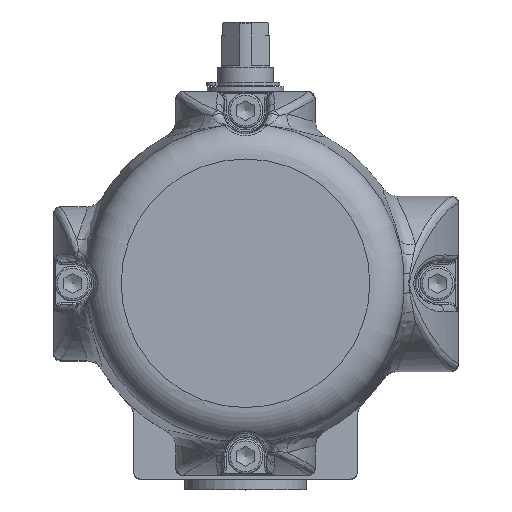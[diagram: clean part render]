
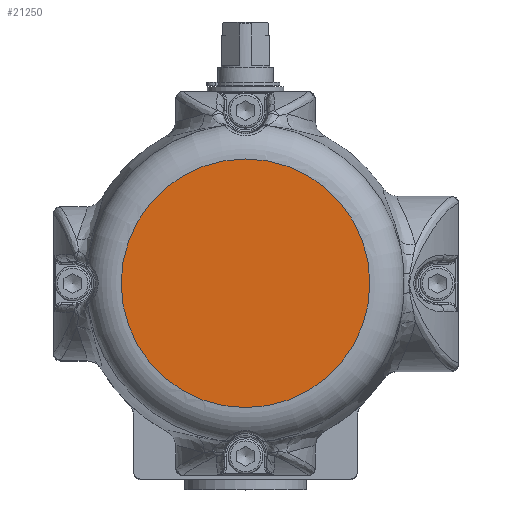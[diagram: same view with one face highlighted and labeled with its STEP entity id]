
A CAD part, top view. The second image highlights one B-rep face of the part: STEP entity #21250.
In plain terms, the highlighted planar face has unit normal (0, 0, 1).
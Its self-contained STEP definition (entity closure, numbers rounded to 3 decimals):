
#903=PLANE('',#22829);
#1759=FACE_OUTER_BOUND('',#2952,.T.);
#2952=EDGE_LOOP('',(#16516));
#3847=CIRCLE('',#22370,35.612);
#8153=VERTEX_POINT('',#41039);
#10622=EDGE_CURVE('',#8153,#8153,#3847,.T.);
#16516=ORIENTED_EDGE('',*,*,#10622,.F.);
#21250=ADVANCED_FACE('',(#1759),#903,.T.);
#22370=AXIS2_PLACEMENT_3D('',#41041,#25164,#25165);
#22829=AXIS2_PLACEMENT_3D('',#49757,#26182,#26183);
#25164=DIRECTION('center_axis',(0.,0.,
-1.));
#25165=DIRECTION('ref_axis',(1.,0.,0.));
#26182=DIRECTION('center_axis',(0.,0.,
1.));
#26183=DIRECTION('ref_axis',(0.,1.,0.));
#41039=CARTESIAN_POINT('',(0.,35.612,101.95));
#41041=CARTESIAN_POINT('Origin',(0.,0.,
101.95));
#49757=CARTESIAN_POINT('Origin',(17.806,0.,
101.95));
